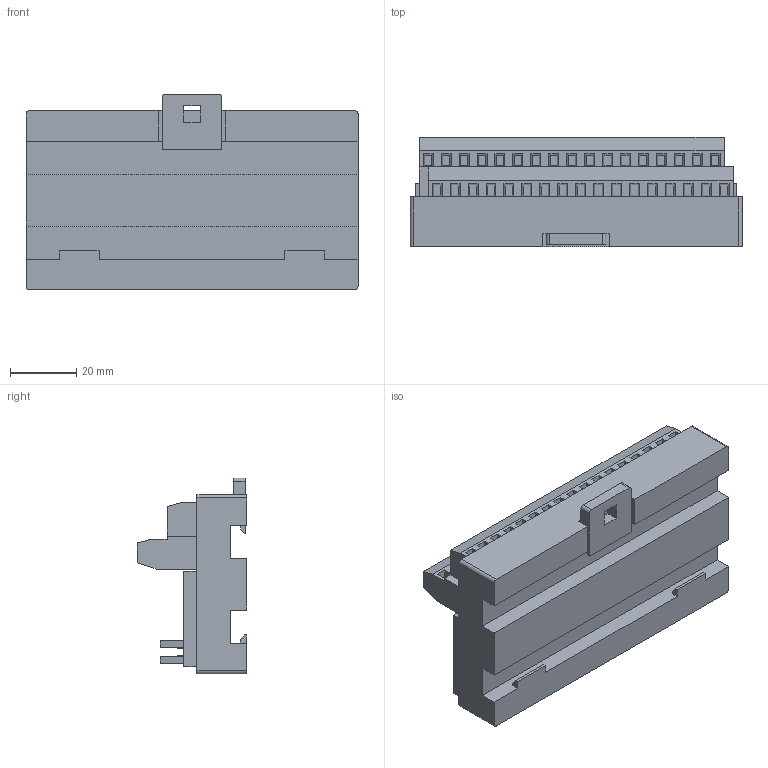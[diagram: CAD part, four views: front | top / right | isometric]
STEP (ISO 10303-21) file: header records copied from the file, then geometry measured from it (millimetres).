
FILE_DESCRIPTION (( 'STEP AP214' ), '1' );
FILE_NAME ('MT-CO34.STEP', '2023-07-12T08:02:54', ( '' ), ( '' ), 'SwSTEP 2.0', 'SolidWorks 2021', '' );
FILE_SCHEMA (( 'AUTOMOTIVE_DESIGN' ));
Length unit declared in the file: millimetre
Products named in the file (1): MT-CO34
Bounding box: 100 x 33 x 59 mm (x, y, z)
Volume: 97017.7 mm3; surface area: 32447.2 mm2
Topology: 1 solids, 1 shells, 876 faces, 2165 edges, 1430 vertices
Faces by surface type: plane 732, cylinder 144
Entity records: 25771 total; most frequent: CARTESIAN_POINT 4472, DIRECTION 4343, ORIENTED_EDGE 4330, EDGE_CURVE 2165, LINE 1741, VECTOR 1741, VERTEX_POINT 1430, AXIS2_PLACEMENT_3D 1301
